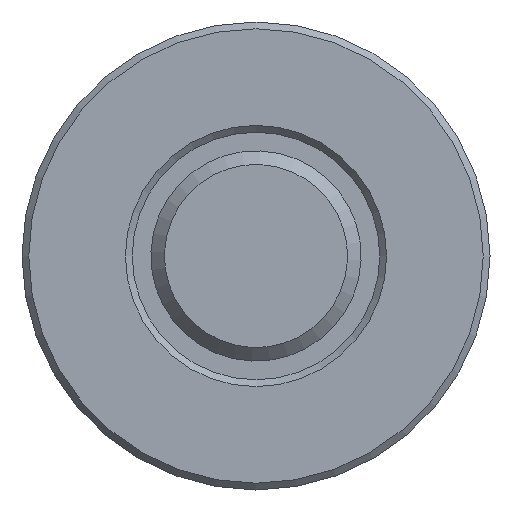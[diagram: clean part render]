
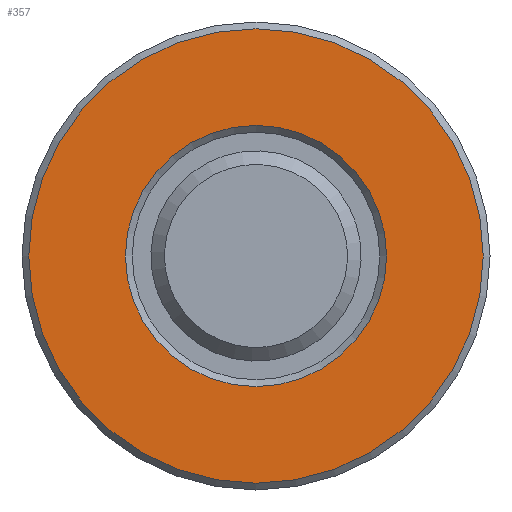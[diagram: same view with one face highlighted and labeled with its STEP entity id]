
A CAD part, front view. The second image highlights one B-rep face of the part: STEP entity #357.
In plain terms, the highlighted planar face has unit normal (0, -1, 0).
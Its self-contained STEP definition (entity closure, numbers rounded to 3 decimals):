
#37=FACE_BOUND('',#80,.T.);
#43=PLANE('',#447);
#54=FACE_OUTER_BOUND('',#79,.T.);
#79=EDGE_LOOP('',(#265));
#80=EDGE_LOOP('',(#266));
#141=CIRCLE('',#444,19.25);
#144=CIRCLE('',#448,33.5);
#173=VERTEX_POINT('',#650);
#176=VERTEX_POINT('',#658);
#207=EDGE_CURVE('',#173,#173,#141,.T.);
#211=EDGE_CURVE('',#176,#176,#144,.T.);
#265=ORIENTED_EDGE('',*,*,#211,.F.);
#266=ORIENTED_EDGE('',*,*,#207,.F.);
#357=ADVANCED_FACE('',(#54,#37),#43,.T.);
#444=AXIS2_PLACEMENT_3D('',#651,#518,#519);
#447=AXIS2_PLACEMENT_3D('',#657,#525,#526);
#448=AXIS2_PLACEMENT_3D('',#659,#527,#528);
#518=DIRECTION('center_axis',(0.,-1.,0.));
#519=DIRECTION('ref_axis',(0.,0.,-1.));
#525=DIRECTION('center_axis',(0.,-1.,0.));
#526=DIRECTION('ref_axis',(0.,0.,-1.));
#527=DIRECTION('center_axis',(0.,1.,0.));
#528=DIRECTION('ref_axis',(0.,0.,-1.));
#650=CARTESIAN_POINT('',(0.,0.,19.25));
#651=CARTESIAN_POINT('Origin',(0.,0.,0.));
#657=CARTESIAN_POINT('Origin',(0.,0.,34.5));
#658=CARTESIAN_POINT('',(0.,0.,33.5));
#659=CARTESIAN_POINT('Origin',(0.,0.,0.));
